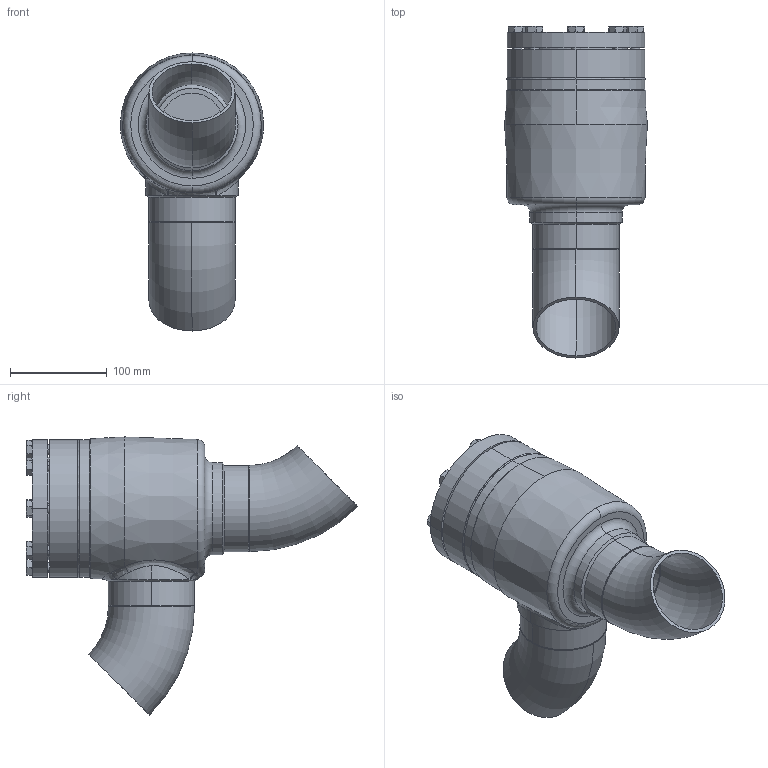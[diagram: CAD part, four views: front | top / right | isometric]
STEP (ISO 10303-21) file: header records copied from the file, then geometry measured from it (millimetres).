
FILE_DESCRIPTION (( 'STEP AP214' ), '1' );
FILE_NAME ('RV28300D18-DN080_R1_PS40.STEP', '2007-01-08T07:35:22', ( 'Herr Grams' ), ( 'AWP GmbH' ), 'SwSTEP 2.0', 'SolidWorks 2002296', '' );
FILE_SCHEMA (( 'AUTOMOTIVE_DESIGN' ));
Length unit declared in the file: millimetre
Products named in the file (12): RV28300D18-DN080_R1_PS40; RV28300E18_Deck+Schr-DN80_Standard; Deckel28300E18-DN80_Standard; Sechskantschraube-DIN933_M10x 30; Gehäuse-kpl16300-DN080_R1_Standard; Gehäuse-kpl16400-DN080_R1_Standard; bead-DN080-1_Standard; Gehäuse16400-DN080_Standard; Kopfstück16300-DN080_Standard; Rohrbogen 45°_Rohrbogen-DN080-45°; bead-DN080-2_Standard; bead-DN080-3_Standard
Assembly tree (19 placements, depth 4):
  RV28300D18-DN080_R1_PS40
    RV28300E18_Deck+Schr-DN80_Standard
      Sechskantschraube-DIN933_M10x 30  x8
      Deckel28300E18-DN80_Standard
    Gehäuse-kpl16300-DN080_R1_Standard
      Rohrbogen 45°_Rohrbogen-DN080-45°  x2
      bead-DN080-2_Standard
      Gehäuse-kpl16400-DN080_R1_Standard
        Gehäuse16400-DN080_Standard
        bead-DN080-1_Standard
        Kopfstück16300-DN080_Standard
      bead-DN080-3_Standard
Bounding box: 147.49 x 342.44 x 286.93 mm (x, y, z)
Volume: 1836180.1 mm3; surface area: 398648.1 mm2
Topology: 16 solids, 16 shells, 319 faces, 682 edges, 409 vertices
Faces by surface type: cone 123, plane 96, cylinder 66, bspline 20, torus 14
Entity records: 16335 total; most frequent: CARTESIAN_POINT 12639, DIRECTION 663, ORIENTED_EDGE 612, EDGE_CURVE 306, AXIS2_PLACEMENT_3D 298, VERTEX_POINT 191, EDGE_LOOP 175, CIRCLE 155
